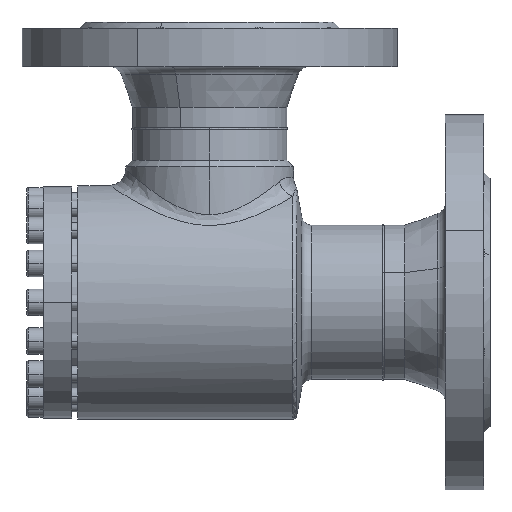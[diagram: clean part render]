
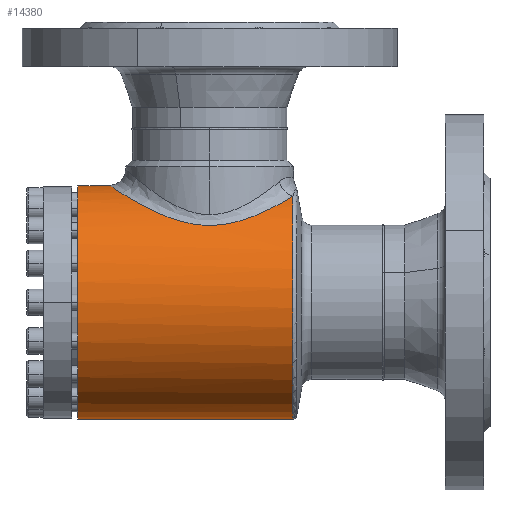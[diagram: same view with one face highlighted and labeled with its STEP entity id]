
A CAD part, left-side view. The second image highlights one B-rep face of the part: STEP entity #14380.
In plain terms, the highlighted cylindrical face has radius 57.5 mm (diameter 115 mm), a partial arc.
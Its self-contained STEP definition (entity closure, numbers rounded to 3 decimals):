
#16511 = CIRCLE ( 'NONE', #16512, 57.5 ) ;
#16512 = AXIS2_PLACEMENT_3D ( 'NONE', #16513, #16514, #16515 ) ;
#16513 = CARTESIAN_POINT ( 'NONE',  ( 0., 0., 0. ) ) ;
#16514 = DIRECTION ( 'NONE',  ( 0., 1., 0. ) ) ;
#16515 = DIRECTION ( 'NONE',  ( 0., 0., 1. ) ) ;
#16550 = FACE_OUTER_BOUND ( 'NONE', #14151, .T. ) ;
#16551 = CYLINDRICAL_SURFACE ( 'NONE', #16552, 57.5 ) ;
#16552 = AXIS2_PLACEMENT_3D ( 'NONE', #16553, #16554, #16555 ) ;
#16553 = CARTESIAN_POINT ( 'NONE',  ( 0., -111., 0. ) ) ;
#16554 = DIRECTION ( 'NONE',  ( 0., 1., 0. ) ) ;
#16555 = DIRECTION ( 'NONE',  ( 0., 0., 1. ) ) ;
#878 = CARTESIAN_POINT ( 'NONE',  ( 0., 0., -57.5 ) ) ;
#907 = CARTESIAN_POINT ( 'NONE',  ( -24.174, -105.892, 52.171 ) ) ;
#1026 = B_SPLINE_CURVE_WITH_KNOTS ( 'NONE', 3,
 ( #1027, #1028, #1029, #1030, #1031, #1032, #1033, #1034, #1035, #1040, #1041, #1042, #1043, #1044, #1045, #1046, #1047, #1048, #1049, #1050, #1051, #1052, #1053, #1054, #1055, #1057, #1058, #1059, #1060, #1061, #1062, #1063, #1064, #1065, #1066, #1067, #1068, #1069, #1070, #1071, #1072, #1076, #1077, #1078, #1079, #1080, #1081, #1082, #1083, #1084, #1085, #1086, #1087, #1088, #1089, #1090, #1091, #1093, #1094, #1095, #1096, #1097 ),
 .UNSPECIFIED., .F., .F.,
 ( 4, 2, 2, 2, 2, 2, 2, 2, 2, 2, 2, 2, 2, 2, 2, 2, 2, 2, 2, 2, 2, 2, 2, 2, 2, 2, 2, 2, 2, 2, 4 ),
 ( 0., 0.008, 0.016, 0.017, 0.019, 0.023, 0.031, 0.035, 0.039, 0.047, 0.049, 0.05, 0.054, 0.058, 0.06, 0.062, 0.07, 0.074, 0.078, 0.085, 0.089, 0.091, 0.093, 0.101, 0.105, 0.107, 0.109, 0.116, 0.118, 0.12, 0.124 ),
 .UNSPECIFIED. ) ;
#1027 = CARTESIAN_POINT ( 'NONE',  ( -24.174, -105.892, 52.171 ) ) ;
#1028 = CARTESIAN_POINT ( 'NONE',  ( -26.132, -104.39, 51.264 ) ) ;
#1029 = CARTESIAN_POINT ( 'NONE',  ( -27.915, -102.76, 50.305 ) ) ;
#1030 = CARTESIAN_POINT ( 'NONE',  ( -31.195, -99.268, 48.34 ) ) ;
#1031 = CARTESIAN_POINT ( 'NONE',  ( -32.691, -97.405, 47.333 ) ) ;
#1032 = CARTESIAN_POINT ( 'NONE',  ( -34.397, -94.927, 46.079 ) ) ;
#1033 = CARTESIAN_POINT ( 'NONE',  ( -34.73, -94.424, 45.829 ) ) ;
#1034 = CARTESIAN_POINT ( 'NONE',  ( -35.379, -93.402, 45.329 ) ) ;
#1035 = CARTESIAN_POINT ( 'NONE',  ( -35.695, -92.884, 45.08 ) ) ;
#1040 = CARTESIAN_POINT ( 'NONE',  ( -36.613, -91.317, 44.344 ) ) ;
#1041 = CARTESIAN_POINT ( 'NONE',  ( -37.186, -90.253, 43.863 ) ) ;
#1042 = CARTESIAN_POINT ( 'NONE',  ( -38.793, -86.998, 42.466 ) ) ;
#1043 = CARTESIAN_POINT ( 'NONE',  ( -39.716, -84.747, 41.594 ) ) ;
#1044 = CARTESIAN_POINT ( 'NONE',  ( -40.882, -81.225, 40.437 ) ) ;
#1045 = CARTESIAN_POINT ( 'NONE',  ( -41.234, -80.027, 40.077 ) ) ;
#1046 = CARTESIAN_POINT ( 'NONE',  ( -41.862, -77.576, 39.421 ) ) ;
#1047 = CARTESIAN_POINT ( 'NONE',  ( -42.138, -76.319, 39.125 ) ) ;
#1048 = CARTESIAN_POINT ( 'NONE',  ( -42.831, -72.529, 38.37 ) ) ;
#1049 = CARTESIAN_POINT ( 'NONE',  ( -43.12, -69.961, 38.038 ) ) ;
#1050 = CARTESIAN_POINT ( 'NONE',  ( -43.257, -66.692, 37.883 ) ) ;
#1051 = CARTESIAN_POINT ( 'NONE',  ( -43.273, -66.034, 37.864 ) ) ;
#1052 = CARTESIAN_POINT ( 'NONE',  ( -43.282, -64.718, 37.854 ) ) ;
#1053 = CARTESIAN_POINT ( 'NONE',  ( -43.275, -64.063, 37.862 ) ) ;
#1054 = CARTESIAN_POINT ( 'NONE',  ( -43.219, -62.103, 37.926 ) ) ;
#1055 = CARTESIAN_POINT ( 'NONE',  ( -43.137, -60.806, 38.02 ) ) ;
#1057 = CARTESIAN_POINT ( 'NONE',  ( -42.884, -58.229, 38.305 ) ) ;
#1058 = CARTESIAN_POINT ( 'NONE',  ( -42.713, -56.95, 38.496 ) ) ;
#1059 = CARTESIAN_POINT ( 'NONE',  ( -42.391, -55.043, 38.85 ) ) ;
#1060 = CARTESIAN_POINT ( 'NONE',  ( -42.272, -54.408, 38.979 ) ) ;
#1061 = CARTESIAN_POINT ( 'NONE',  ( -42.014, -53.15, 39.257 ) ) ;
#1062 = CARTESIAN_POINT ( 'NONE',  ( -41.875, -52.528, 39.406 ) ) ;
#1063 = CARTESIAN_POINT ( 'NONE',  ( -41.13, -49.446, 40.191 ) ) ;
#1064 = CARTESIAN_POINT ( 'NONE',  ( -40.378, -47.077, 40.957 ) ) ;
#1065 = CARTESIAN_POINT ( 'NONE',  ( -39.022, -43.642, 42.237 ) ) ;
#1066 = CARTESIAN_POINT ( 'NONE',  ( -38.532, -42.517, 42.685 ) ) ;
#1067 = CARTESIAN_POINT ( 'NONE',  ( -37.473, -40.304, 43.618 ) ) ;
#1068 = CARTESIAN_POINT ( 'NONE',  ( -36.908, -39.223, 44.098 ) ) ;
#1069 = CARTESIAN_POINT ( 'NONE',  ( -35.115, -36.073, 45.559 ) ) ;
#1070 = CARTESIAN_POINT ( 'NONE',  ( -33.785, -34.085, 46.562 ) ) ;
#1071 = CARTESIAN_POINT ( 'NONE',  ( -31.574, -31.259, 48.064 ) ) ;
#1072 = CARTESIAN_POINT ( 'NONE',  ( -30.801, -30.343, 48.564 ) ) ;
#1076 = CARTESIAN_POINT ( 'NONE',  ( -29.582, -29.009, 49.309 ) ) ;
#1077 = CARTESIAN_POINT ( 'NONE',  ( -29.166, -28.57, 49.557 ) ) ;
#1078 = CARTESIAN_POINT ( 'NONE',  ( -28.313, -27.708, 50.049 ) ) ;
#1079 = CARTESIAN_POINT ( 'NONE',  ( -27.875, -27.282, 50.294 ) ) ;
#1080 = CARTESIAN_POINT ( 'NONE',  ( -25.646, -25.201, 51.504 ) ) ;
#1081 = CARTESIAN_POINT ( 'NONE',  ( -23.737, -23.688, 52.419 ) ) ;
#1082 = CARTESIAN_POINT ( 'NONE',  ( -20.66, -21.659, 53.671 ) ) ;
#1083 = CARTESIAN_POINT ( 'NONE',  ( -19.599, -21.023, 54.069 ) ) ;
#1084 = CARTESIAN_POINT ( 'NONE',  ( -17.948, -20.134, 54.63 ) ) ;
#1085 = CARTESIAN_POINT ( 'NONE',  ( -17.388, -19.848, 54.811 ) ) ;
#1086 = CARTESIAN_POINT ( 'NONE',  ( -16.247, -19.3, 55.16 ) ) ;
#1087 = CARTESIAN_POINT ( 'NONE',  ( -15.665, -19.037, 55.328 ) ) ;
#1088 = CARTESIAN_POINT ( 'NONE',  ( -12.734, -17.796, 56.125 ) ) ;
#1089 = CARTESIAN_POINT ( 'NONE',  ( -10.302, -17.028, 56.627 ) ) ;
#1090 = CARTESIAN_POINT ( 'NONE',  ( -7.142, -16.371, 57.058 ) ) ;
#1091 = CARTESIAN_POINT ( 'NONE',  ( -6.505, -16.254, 57.135 ) ) ;
#1093 = CARTESIAN_POINT ( 'NONE',  ( -5.216, -16.054, 57.267 ) ) ;
#1094 = CARTESIAN_POINT ( 'NONE',  ( -4.563, -15.969, 57.322 ) ) ;
#1095 = CARTESIAN_POINT ( 'NONE',  ( -2.602, -15.766, 57.456 ) ) ;
#1096 = CARTESIAN_POINT ( 'NONE',  ( -1.298, -15.7, 57.5 ) ) ;
#1097 = CARTESIAN_POINT ( 'NONE',  ( 0., -15.7, 57.5 ) ) ;
#1187 = CARTESIAN_POINT ( 'NONE',  ( 0., 0., 57.5 ) ) ;
#2440 = CARTESIAN_POINT ( 'NONE',  ( 0., -15.7, 57.5 ) ) ;
#2590 = LINE ( 'NONE', #2591, #2592 ) ;
#2591 = CARTESIAN_POINT ( 'NONE',  ( 0., -111., 57.5 ) ) ;
#2592 = VECTOR ( 'NONE', #2593, 1000. ) ;
#2593 = DIRECTION ( 'NONE',  ( 0., 1., 0. ) ) ;
#8164 = VERTEX_POINT ( 'NONE', #1187 ) ;
#10693 = EDGE_CURVE ( 'NONE', #10966, #12510, #16041, .T. ) ;
#10966 = VERTEX_POINT ( 'NONE', #16183 ) ;
#11126 = ORIENTED_EDGE ( 'NONE', *, *, #10693, .F. ) ;
#11298 = EDGE_CURVE ( 'NONE', #12510, #8164, #16511, .T. ) ;
#11729 = ORIENTED_EDGE ( 'NONE', *, *, #11298, .F. ) ;
#12221 = ORIENTED_EDGE ( 'NONE', *, *, #12784, .T. ) ;
#12510 = VERTEX_POINT ( 'NONE', #878 ) ;
#12638 = EDGE_CURVE ( 'NONE', #15547, #12769, #1026, .T. ) ;
#12769 = VERTEX_POINT ( 'NONE', #2440 ) ;
#12784 = EDGE_CURVE ( 'NONE', #12769, #8164, #2590, .T. ) ;
#14079 = EDGE_CURVE ( 'NONE', #10966, #15547, #16226, .T. ) ;
#14151 = EDGE_LOOP ( 'NONE', ( #11126, #14432, #15054, #12221, #11729 ) ) ;
#14380 = ADVANCED_FACE ( 'NONE', ( #16550 ), #16551, .T. ) ;
#14432 = ORIENTED_EDGE ( 'NONE', *, *, #14079, .T. ) ;
#15054 = ORIENTED_EDGE ( 'NONE', *, *, #12638, .T. ) ;
#15547 = VERTEX_POINT ( 'NONE', #907 ) ;
#16041 = LINE ( 'NONE', #16042, #16043 ) ;
#16042 = CARTESIAN_POINT ( 'NONE',  ( 0., -111., -57.5 ) ) ;
#16043 = VECTOR ( 'NONE', #16044, 1000. ) ;
#16044 = DIRECTION ( 'NONE',  ( 0., 1., 0. ) ) ;
#16183 = CARTESIAN_POINT ( 'NONE',  ( 0., -105.892, -57.5 ) ) ;
#16226 = CIRCLE ( 'NONE', #16227, 57.5 ) ;
#16227 = AXIS2_PLACEMENT_3D ( 'NONE', #16228, #16229, #16230 ) ;
#16228 = CARTESIAN_POINT ( 'NONE',  ( 0., -105.892, 0. ) ) ;
#16229 = DIRECTION ( 'NONE',  ( 0., 1., 0. ) ) ;
#16230 = DIRECTION ( 'NONE',  ( 0., 0., -1. ) ) ;
